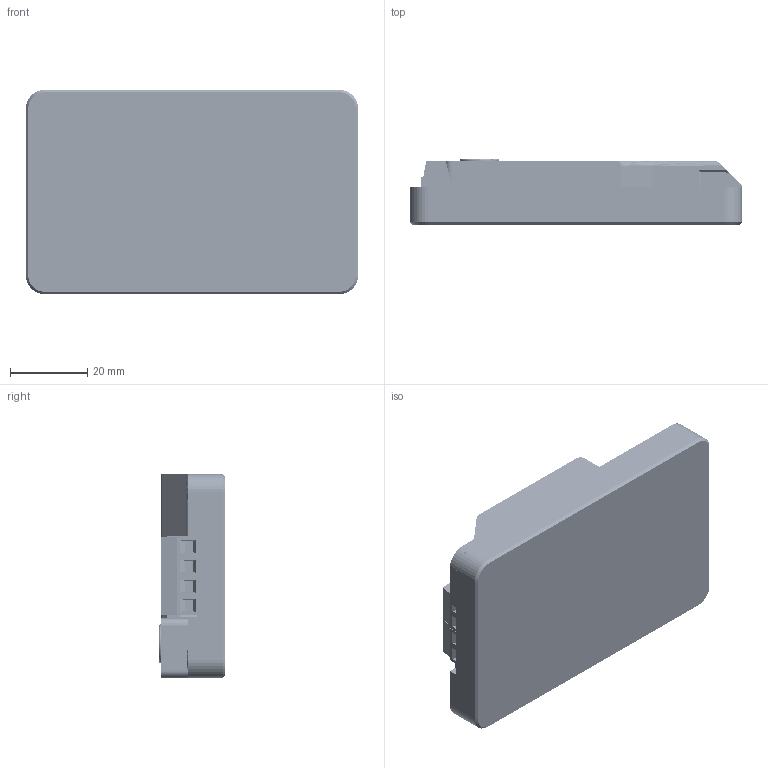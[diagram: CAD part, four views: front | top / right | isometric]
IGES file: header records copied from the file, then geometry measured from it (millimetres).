
Start section: SolidWorks IGES file using analytic representation for surfaces
Global section: file name: D:\Cytron\Technical\MD10-POT - 10A Potentiometer Control DC Motor Driver\md10-pot\Mechanical Design\MD10-POT CAD and Jig\MD10-POT with Enclosure.IGS; native system: SolidWorks 2015; preprocessor: SolidWorks 2015; author: DIANMIAO; date: 181214.171640; units: millimetre
Bounding box: 85.78 x 17.1 x 52.76 mm (x, y, z)
Surface area: 38542.1 mm2 (no closed solid volume)
Topology: 0 solids, 0 shells, 4675 faces, 40520 edges, 40368 vertices
Faces by surface type: bspline 3116, revolution 1559
